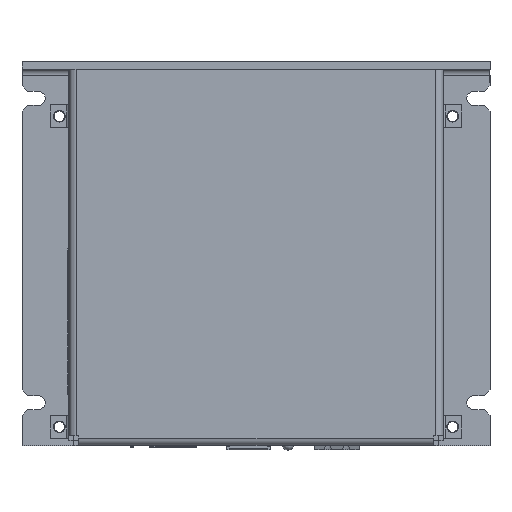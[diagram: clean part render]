
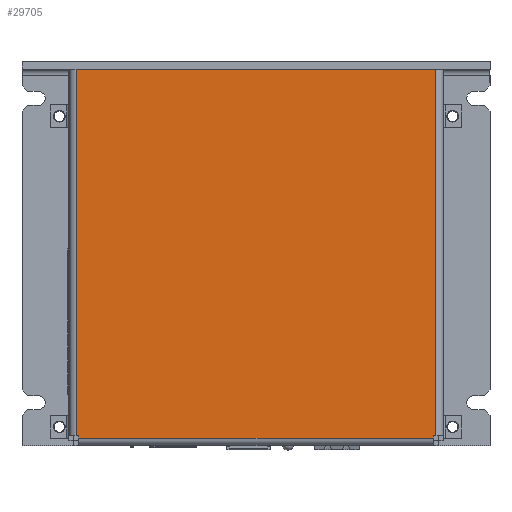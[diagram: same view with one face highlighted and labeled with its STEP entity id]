
A CAD part, top view. The second image highlights one B-rep face of the part: STEP entity #29705.
In plain terms, the highlighted planar face has unit normal (0, 0, 1).
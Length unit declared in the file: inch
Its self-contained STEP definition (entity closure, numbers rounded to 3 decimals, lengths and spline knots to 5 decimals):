
#5656 = AXIS2_PLACEMENT_3D ( 'NONE', #37898, #37904, #37905 ) ;
#29705 = ADVANCED_FACE ( 'NONE', ( #37902 ), #37896, .T. ) ;
#37896 = PLANE ( 'NONE',  #5656 ) ;
#37898 = CARTESIAN_POINT ( 'NONE',  ( -2.2, -2.01, 1.12 ) ) ;
#37902 = FACE_OUTER_BOUND ( 'NONE', #82606, .T. ) ;
#37904 = DIRECTION ( 'NONE',  ( 0., 0., 1. ) ) ;
#37905 = DIRECTION ( 'NONE',  ( 1., 0., 0. ) ) ;
#47210 = ORIENTED_EDGE ( 'NONE', *, *, #98249, .T. ) ;
#47211 = ORIENTED_EDGE ( 'NONE', *, *, #98199, .T. ) ;
#47212 = ORIENTED_EDGE ( 'NONE', *, *, #98260, .T. ) ;
#47213 = ORIENTED_EDGE ( 'NONE', *, *, #98184, .F. ) ;
#47214 = ORIENTED_EDGE ( 'NONE', *, *, #98217, .T. ) ;
#47215 = ORIENTED_EDGE ( 'NONE', *, *, #98214, .T. ) ;
#47216 = ORIENTED_EDGE ( 'NONE', *, *, #98193, .T. ) ;
#47217 = ORIENTED_EDGE ( 'NONE', *, *, #98227, .T. ) ;
#54439 = CARTESIAN_POINT ( 'NONE',  ( -1.896, -1.906, 1.12 ) ) ;
#54448 = CARTESIAN_POINT ( 'NONE',  ( 1.896, -1.906, 1.12 ) ) ;
#54459 = CARTESIAN_POINT ( 'NONE',  ( 1.896, -1.931, 1.12 ) ) ;
#54628 = CARTESIAN_POINT ( 'NONE',  ( -1.921, 2.01, 1.12 ) ) ;
#54684 = CARTESIAN_POINT ( 'NONE',  ( -1.921, -1.906, 1.12 ) ) ;
#55044 = CARTESIAN_POINT ( 'NONE',  ( 1.921, -1.906, 1.12 ) ) ;
#55092 = CARTESIAN_POINT ( 'NONE',  ( 1.921, 2.01, 1.12 ) ) ;
#55148 = CARTESIAN_POINT ( 'NONE',  ( -1.896, -1.931, 1.12 ) ) ;
#55951 = VECTOR ( 'NONE', #57348, 39.37008 ) ;
#55954 = VECTOR ( 'NONE', #57371, 39.37008 ) ;
#55955 = VECTOR ( 'NONE', #57361, 39.37008 ) ;
#55957 = VECTOR ( 'NONE', #57397, 39.37008 ) ;
#55959 = VECTOR ( 'NONE', #57392, 39.37008 ) ;
#55963 = VECTOR ( 'NONE', #57410, 39.37008 ) ;
#55971 = VECTOR ( 'NONE', #57457, 39.37008 ) ;
#55973 = VECTOR ( 'NONE', #57439, 39.37008 ) ;
#57338 = CARTESIAN_POINT ( 'NONE',  ( -1.921, 2.01, 1.12 ) ) ;
#57346 = LINE ( 'NONE', #57338, #55951 ) ;
#57348 = DIRECTION ( 'NONE',  ( 0., 1., 0. ) ) ;
#57351 = LINE ( 'NONE', #57358, #55955 ) ;
#57358 = CARTESIAN_POINT ( 'NONE',  ( 1.896, -1.931, 1.12 ) ) ;
#57361 = DIRECTION ( 'NONE',  ( 1., 0., 0. ) ) ;
#57367 = LINE ( 'NONE', #57370, #55954 ) ;
#57370 = CARTESIAN_POINT ( 'NONE',  ( 1.921, 2.01, 1.12 ) ) ;
#57371 = DIRECTION ( 'NONE',  ( 0., 1., 0. ) ) ;
#57386 = LINE ( 'NONE', #57396, #55957 ) ;
#57389 = LINE ( 'NONE', #57391, #55959 ) ;
#57391 = CARTESIAN_POINT ( 'NONE',  ( -1.896, -2.01, 1.12 ) ) ;
#57392 = DIRECTION ( 'NONE',  ( 0., -1., 0. ) ) ;
#57396 = CARTESIAN_POINT ( 'NONE',  ( -2.2, -1.906, 1.12 ) ) ;
#57397 = DIRECTION ( 'NONE',  ( 1., 0., 0. ) ) ;
#57399 = LINE ( 'NONE', #57409, #55963 ) ;
#57409 = CARTESIAN_POINT ( 'NONE',  ( 1.896, -2.01, 1.12 ) ) ;
#57410 = DIRECTION ( 'NONE',  ( 0., 1., 0. ) ) ;
#57432 = LINE ( 'NONE', #57436, #55973 ) ;
#57436 = CARTESIAN_POINT ( 'NONE',  ( -2.2, -1.906, 1.12 ) ) ;
#57439 = DIRECTION ( 'NONE',  ( 1., 0., 0. ) ) ;
#57454 = LINE ( 'NONE', #57456, #55971 ) ;
#57456 = CARTESIAN_POINT ( 'NONE',  ( -2.2, 2.01, 1.12 ) ) ;
#57457 = DIRECTION ( 'NONE',  ( -1., 0., 0. ) ) ;
#82606 = EDGE_LOOP ( 'NONE', ( #47210, #47211, #47212, #47213, #47214, #47215, #47216, #47217 ) ) ;
#97379 = VERTEX_POINT ( 'NONE', #54439 ) ;
#97384 = VERTEX_POINT ( 'NONE', #54448 ) ;
#97391 = VERTEX_POINT ( 'NONE', #54459 ) ;
#97482 = VERTEX_POINT ( 'NONE', #54628 ) ;
#97513 = VERTEX_POINT ( 'NONE', #54684 ) ;
#97706 = VERTEX_POINT ( 'NONE', #55044 ) ;
#97732 = VERTEX_POINT ( 'NONE', #55092 ) ;
#97765 = VERTEX_POINT ( 'NONE', #55148 ) ;
#98184 = EDGE_CURVE ( 'NONE', #97513, #97482, #57346, .T. ) ;
#98193 = EDGE_CURVE ( 'NONE', #97765, #97391, #57351, .T. ) ;
#98199 = EDGE_CURVE ( 'NONE', #97706, #97732, #57367, .T. ) ;
#98214 = EDGE_CURVE ( 'NONE', #97379, #97765, #57389, .T. ) ;
#98217 = EDGE_CURVE ( 'NONE', #97513, #97379, #57386, .T. ) ;
#98227 = EDGE_CURVE ( 'NONE', #97391, #97384, #57399, .T. ) ;
#98249 = EDGE_CURVE ( 'NONE', #97384, #97706, #57432, .T. ) ;
#98260 = EDGE_CURVE ( 'NONE', #97732, #97482, #57454, .T. ) ;
